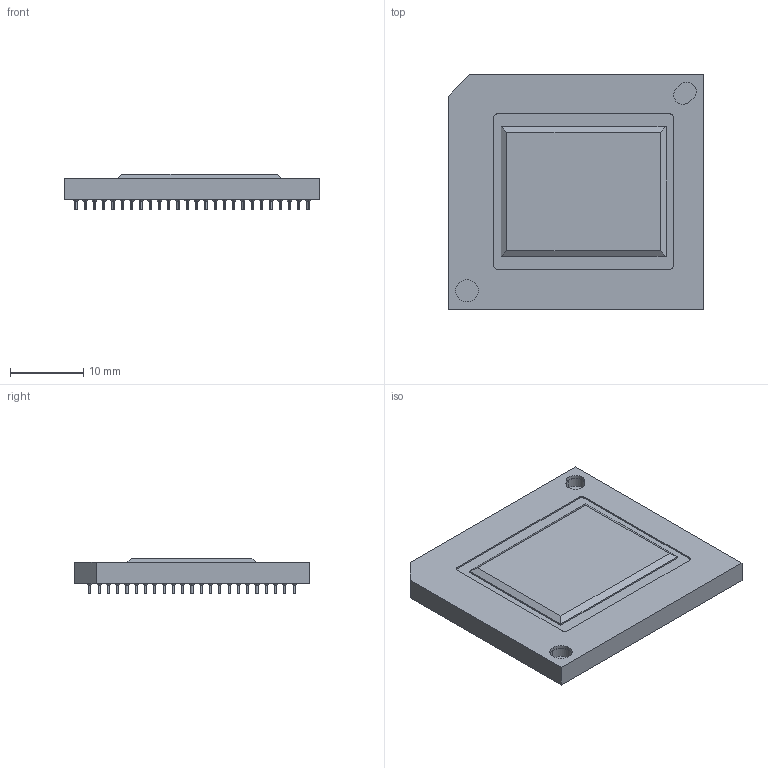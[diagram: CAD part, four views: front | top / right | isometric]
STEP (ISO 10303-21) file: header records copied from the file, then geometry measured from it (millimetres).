
FILE_DESCRIPTION (( 'STEP AP214' ), '1' );
FILE_NAME ('s600-8-WUXGA-DMD.STEP', '2020-04-28T19:01:16', ( 'TI User' ), ( 'Texas Instruments, Inc' ), 'SwSTEP 2.0', 'SolidWorks 2017', '' );
FILE_SCHEMA (( 'AUTOMOTIVE_DESIGN' ));
Length unit declared in the file: millimetre
Products named in the file (4): s600-8-WUXGA-Window; s600-8-WUXGA-DMD; s600-SymbolizePad; s600-8-WUXGA-Ceramic
Assembly tree (3 placements, depth 2):
  s600-8-WUXGA-DMD
    s600-8-WUXGA-Ceramic
    s600-8-WUXGA-Window
    s600-SymbolizePad
Bounding box: 35 x 32.2 x 4.91 mm (x, y, z)
Volume: 3357 mm3; surface area: 4446.9 mm2
Topology: 3 solids, 3 shells, 1830 faces, 3685 edges, 2220 vertices
Faces by surface type: cylinder 714, cone 700, plane 416
Entity records: 67493 total; most frequent: DIRECTION 9485, CARTESIAN_POINT 7741, ORIENTED_EDGE 7370, AXIS2_PLACEMENT_3D 3964, EDGE_CURVE 3685, VERTEX_POINT 2220, EDGE_LOOP 2189, CIRCLE 2128
